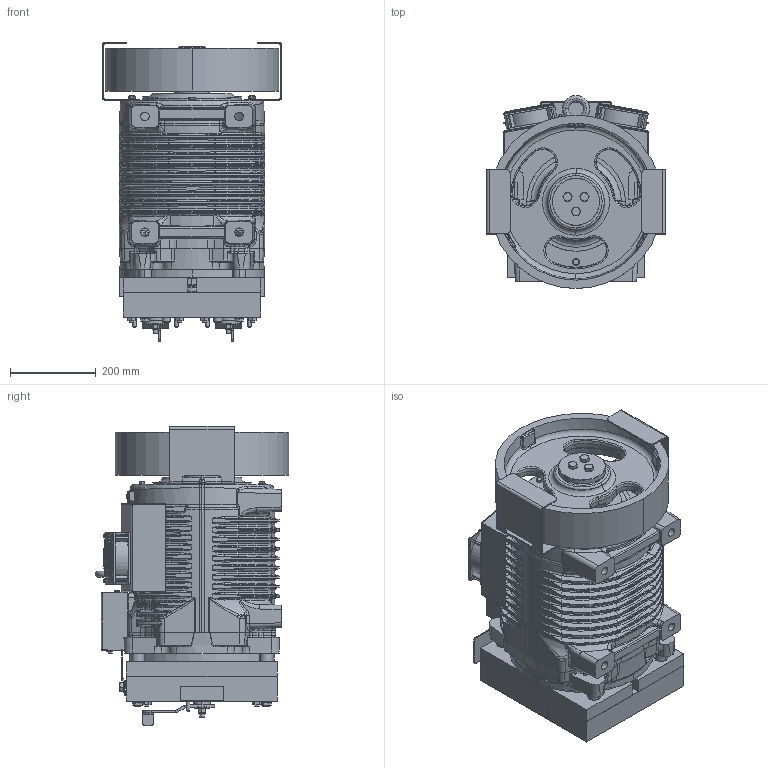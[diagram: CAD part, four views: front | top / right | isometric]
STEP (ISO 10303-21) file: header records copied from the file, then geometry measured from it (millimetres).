
FILE_DESCRIPTION((''),'2;1');
FILE_NAME('00363504_ASM','2020-05-29T',('furlanis'),('Sicor spa'),'CREO PARAMETRIC BY PTC INC, 2017170','CREO PARAMETRIC BY PTC INC, 2017170','');
FILE_SCHEMA(('CONFIG_CONTROL_DESIGN'));
Products named in the file (4): SG48HF; _400; _400_100; 00363504_ASM
Assembly tree (4 placements, depth 2):
  00363504_ASM
    SG48HF
    _400  x2
    _400_100
Bounding box: 417 x 450.5 x 697.34 mm (x, y, z)
Volume: 5175665.1 mm3; surface area: 3441591.1 mm2
Topology: 3 solids, 379 shells, 4558 faces, 14638 edges, 10127 vertices
Faces by surface type: plane 1527, cylinder 1184, bspline 905, torus 490, cone 422, sphere 26, revolution 4
Entity records: 239286 total; most frequent: CARTESIAN_POINT 124988, ORIENTED_EDGE 23003, DIRECTION 20956, EDGE_CURVE 14474, VERTEX_POINT 10047, AXIS2_PLACEMENT_3D 7285, VECTOR 6382, LINE 6382
